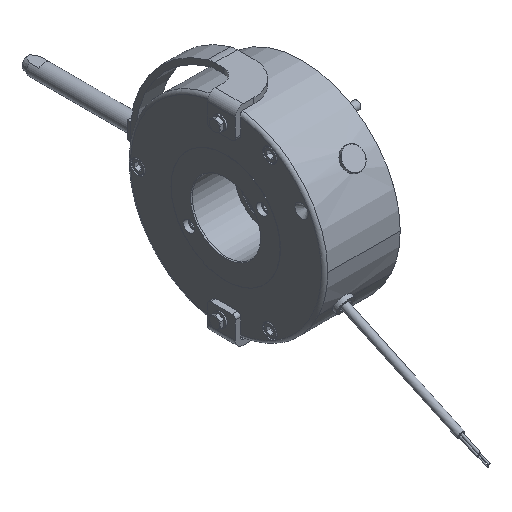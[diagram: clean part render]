
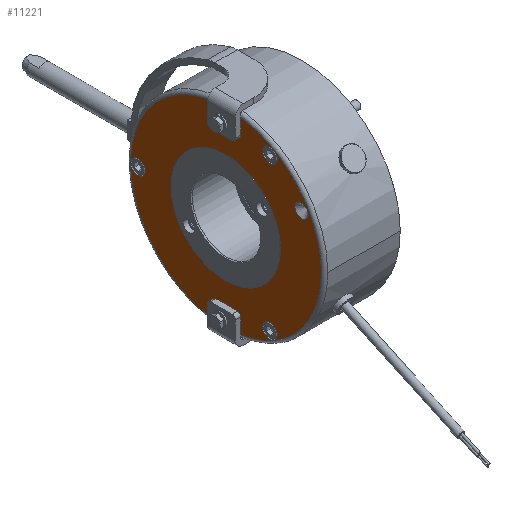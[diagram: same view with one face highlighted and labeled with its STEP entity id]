
A CAD part, isometric view. The second image highlights one B-rep face of the part: STEP entity #11221.
In plain terms, the highlighted planar face has unit normal (-1, 0, 0).
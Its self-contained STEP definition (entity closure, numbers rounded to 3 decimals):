
#297=PLANE('',#12083);
#430=FACE_BOUND('',#1344,.T.);
#431=FACE_BOUND('',#1345,.T.);
#432=FACE_BOUND('',#1346,.T.);
#433=FACE_BOUND('',#1347,.T.);
#434=FACE_BOUND('',#1348,.T.);
#677=FACE_OUTER_BOUND('',#1343,.T.);
#1343=EDGE_LOOP('',(#7709,#7710,#7711,#7712,#7713,#7714,#7715,#7716,#7717,
#7718,#7719,#7720));
#1344=EDGE_LOOP('',(#7721,#7722));
#1345=EDGE_LOOP('',(#7723,#7724));
#1346=EDGE_LOOP('',(#7725,#7726));
#1347=EDGE_LOOP('',(#7727,#7728));
#1348=EDGE_LOOP('',(#7729,#7730));
#2217=CIRCLE('',#11985,41.);
#2218=CIRCLE('',#11986,41.);
#2222=CIRCLE('',#11992,5.5);
#2223=CIRCLE('',#11993,5.5);
#2227=CIRCLE('',#12000,5.5);
#2228=CIRCLE('',#12001,5.5);
#2232=CIRCLE('',#12008,5.5);
#2233=CIRCLE('',#12009,5.5);
#2240=CIRCLE('',#12019,71.501);
#2242=CIRCLE('',#12021,71.501);
#2279=CIRCLE('',#12072,5.);
#2280=CIRCLE('',#12073,5.);
#2286=CIRCLE('',#12084,2.5);
#2287=CIRCLE('',#12085,2.5);
#2288=CIRCLE('',#12086,2.5);
#2289=CIRCLE('',#12087,2.5);
#2935=LINE('',#17553,#3561);
#2936=LINE('',#17555,#3562);
#2937=LINE('',#17559,#3563);
#2938=LINE('',#17562,#3564);
#2939=LINE('',#17564,#3565);
#2940=LINE('',#17568,#3566);
#3561=VECTOR('',#14003,10.);
#3562=VECTOR('',#14004,10.);
#3563=VECTOR('',#14007,10.);
#3564=VECTOR('',#14010,10.);
#3565=VECTOR('',#14011,10.);
#3566=VECTOR('',#14014,10.);
#4282=VERTEX_POINT('',#17290);
#4283=VERTEX_POINT('',#17291);
#4287=VERTEX_POINT('',#17304);
#4288=VERTEX_POINT('',#17305);
#4292=VERTEX_POINT('',#17319);
#4293=VERTEX_POINT('',#17320);
#4297=VERTEX_POINT('',#17334);
#4298=VERTEX_POINT('',#17335);
#4302=VERTEX_POINT('',#17369);
#4303=VERTEX_POINT('',#17371);
#4304=VERTEX_POINT('',#17373);
#4305=VERTEX_POINT('',#17375);
#4347=VERTEX_POINT('',#17527);
#4348=VERTEX_POINT('',#17528);
#4355=VERTEX_POINT('',#17552);
#4356=VERTEX_POINT('',#17554);
#4357=VERTEX_POINT('',#17556);
#4358=VERTEX_POINT('',#17558);
#4359=VERTEX_POINT('',#17560);
#4360=VERTEX_POINT('',#17563);
#4361=VERTEX_POINT('',#17565);
#4362=VERTEX_POINT('',#17567);
#5517=EDGE_CURVE('',#4282,#4283,#2217,.T.);
#5518=EDGE_CURVE('',#4283,#4282,#2218,.T.);
#5524=EDGE_CURVE('',#4287,#4288,#2222,.T.);
#5525=EDGE_CURVE('',#4288,#4287,#2223,.T.);
#5531=EDGE_CURVE('',#4292,#4293,#2227,.T.);
#5532=EDGE_CURVE('',#4293,#4292,#2228,.T.);
#5538=EDGE_CURVE('',#4297,#4298,#2232,.T.);
#5539=EDGE_CURVE('',#4298,#4297,#2233,.T.);
#5548=EDGE_CURVE('',#4302,#4303,#2240,.T.);
#5550=EDGE_CURVE('',#4304,#4305,#2242,.T.);
#5604=EDGE_CURVE('',#4347,#4348,#2279,.T.);
#5605=EDGE_CURVE('',#4348,#4347,#2280,.T.);
#5616=EDGE_CURVE('',#4355,#4305,#2935,.T.);
#5617=EDGE_CURVE('',#4304,#4356,#2936,.T.);
#5618=EDGE_CURVE('',#4356,#4357,#2286,.T.);
#5619=EDGE_CURVE('',#4357,#4358,#2937,.T.);
#5620=EDGE_CURVE('',#4358,#4359,#2287,.T.);
#5621=EDGE_CURVE('',#4359,#4303,#2938,.T.);
#5622=EDGE_CURVE('',#4302,#4360,#2939,.T.);
#5623=EDGE_CURVE('',#4360,#4361,#2288,.T.);
#5624=EDGE_CURVE('',#4361,#4362,#2940,.T.);
#5625=EDGE_CURVE('',#4362,#4355,#2289,.T.);
#7709=ORIENTED_EDGE('',*,*,#5616,.T.);
#7710=ORIENTED_EDGE('',*,*,#5550,.F.);
#7711=ORIENTED_EDGE('',*,*,#5617,.T.);
#7712=ORIENTED_EDGE('',*,*,#5618,.T.);
#7713=ORIENTED_EDGE('',*,*,#5619,.T.);
#7714=ORIENTED_EDGE('',*,*,#5620,.T.);
#7715=ORIENTED_EDGE('',*,*,#5621,.T.);
#7716=ORIENTED_EDGE('',*,*,#5548,.F.);
#7717=ORIENTED_EDGE('',*,*,#5622,.T.);
#7718=ORIENTED_EDGE('',*,*,#5623,.T.);
#7719=ORIENTED_EDGE('',*,*,#5624,.T.);
#7720=ORIENTED_EDGE('',*,*,#5625,.T.);
#7721=ORIENTED_EDGE('',*,*,#5604,.T.);
#7722=ORIENTED_EDGE('',*,*,#5605,.T.);
#7723=ORIENTED_EDGE('',*,*,#5517,.T.);
#7724=ORIENTED_EDGE('',*,*,#5518,.T.);
#7725=ORIENTED_EDGE('',*,*,#5524,.T.);
#7726=ORIENTED_EDGE('',*,*,#5525,.T.);
#7727=ORIENTED_EDGE('',*,*,#5531,.T.);
#7728=ORIENTED_EDGE('',*,*,#5532,.T.);
#7729=ORIENTED_EDGE('',*,*,#5538,.T.);
#7730=ORIENTED_EDGE('',*,*,#5539,.T.);
#11221=ADVANCED_FACE('',(#677,#430,#431,#432,#433,#434),#297,.T.);
#11985=AXIS2_PLACEMENT_3D('',#17292,#13781,#13782);
#11986=AXIS2_PLACEMENT_3D('',#17293,#13783,#13784);
#11992=AXIS2_PLACEMENT_3D('',#17306,#13797,#13798);
#11993=AXIS2_PLACEMENT_3D('',#17307,#13799,#13800);
#12000=AXIS2_PLACEMENT_3D('',#17321,#13815,#13816);
#12001=AXIS2_PLACEMENT_3D('',#17322,#13817,#13818);
#12008=AXIS2_PLACEMENT_3D('',#17336,#13833,#13834);
#12009=AXIS2_PLACEMENT_3D('',#17337,#13835,#13836);
#12019=AXIS2_PLACEMENT_3D('',#17372,#13856,#13857);
#12021=AXIS2_PLACEMENT_3D('',#17376,#13860,#13861);
#12072=AXIS2_PLACEMENT_3D('',#17529,#13974,#13975);
#12073=AXIS2_PLACEMENT_3D('',#17530,#13976,#13977);
#12083=AXIS2_PLACEMENT_3D('',#17551,#14001,#14002);
#12084=AXIS2_PLACEMENT_3D('',#17557,#14005,#14006);
#12085=AXIS2_PLACEMENT_3D('',#17561,#14008,#14009);
#12086=AXIS2_PLACEMENT_3D('',#17566,#14012,#14013);
#12087=AXIS2_PLACEMENT_3D('',#17569,#14015,#14016);
#13781=DIRECTION('center_axis',(1.,0.,0.));
#13782=DIRECTION('ref_axis',(0.,1.,0.));
#13783=DIRECTION('center_axis',(1.,0.,0.));
#13784=DIRECTION('ref_axis',(0.,1.,0.));
#13797=DIRECTION('center_axis',(1.,0.,0.));
#13798=DIRECTION('ref_axis',(0.,0.,1.));
#13799=DIRECTION('center_axis',(1.,0.,0.));
#13800=DIRECTION('ref_axis',(0.,0.,1.));
#13815=DIRECTION('center_axis',(1.,0.,0.));
#13816=DIRECTION('ref_axis',(0.,0.,1.));
#13817=DIRECTION('center_axis',(1.,0.,0.));
#13818=DIRECTION('ref_axis',(0.,0.,1.));
#13833=DIRECTION('center_axis',(1.,0.,0.));
#13834=DIRECTION('ref_axis',(0.,0.,1.));
#13835=DIRECTION('center_axis',(1.,0.,0.));
#13836=DIRECTION('ref_axis',(0.,0.,1.));
#13856=DIRECTION('center_axis',(1.,0.,0.));
#13857=DIRECTION('ref_axis',(0.,-1.,0.));
#13860=DIRECTION('center_axis',(1.,0.,0.));
#13861=DIRECTION('ref_axis',(0.,-1.,0.));
#13974=DIRECTION('center_axis',(1.,0.,0.));
#13975=DIRECTION('ref_axis',(0.,0.,1.));
#13976=DIRECTION('center_axis',(1.,0.,0.));
#13977=DIRECTION('ref_axis',(0.,0.,1.));
#14001=DIRECTION('center_axis',(-1.,0.,0.));
#14002=DIRECTION('ref_axis',(0.,0.,1.));
#14003=DIRECTION('',(0.,0.,1.));
#14004=DIRECTION('',(0.,0.,1.));
#14005=DIRECTION('center_axis',(1.,0.,0.));
#14006=DIRECTION('ref_axis',(0.,0.707,0.707));
#14007=DIRECTION('',(0.,-1.,0.));
#14008=DIRECTION('center_axis',(1.,0.,0.));
#14009=DIRECTION('ref_axis',(0.,-0.707,0.707));
#14010=DIRECTION('',(0.,0.,-1.));
#14011=DIRECTION('',(0.,0.,-1.));
#14012=DIRECTION('center_axis',(1.,0.,0.));
#14013=DIRECTION('ref_axis',(0.,-0.707,-0.707));
#14014=DIRECTION('',(0.,1.,0.));
#14015=DIRECTION('center_axis',(1.,0.,0.));
#14016=DIRECTION('ref_axis',(0.,0.707,-0.707));
#17290=CARTESIAN_POINT('',(-56.9,41.,0.));
#17291=CARTESIAN_POINT('',(-56.9,-41.,0.));
#17292=CARTESIAN_POINT('Origin',(-56.9,0.,0.));
#17293=CARTESIAN_POINT('Origin',(-56.9,0.,0.));
#17304=CARTESIAN_POINT('',(-56.9,66.,5.5));
#17305=CARTESIAN_POINT('',(-56.9,66.,-5.5));
#17306=CARTESIAN_POINT('Origin',(-56.9,66.,0.));
#17307=CARTESIAN_POINT('Origin',(-56.9,66.,0.));
#17319=CARTESIAN_POINT('',(-56.9,-33.,-51.658));
#17320=CARTESIAN_POINT('',(-56.9,-33.,-62.658));
#17321=CARTESIAN_POINT('Origin',(-56.9,-33.,-57.158));
#17322=CARTESIAN_POINT('Origin',(-56.9,-33.,-57.158));
#17334=CARTESIAN_POINT('',(-56.9,-33.,62.658));
#17335=CARTESIAN_POINT('',(-56.9,-33.,51.658));
#17336=CARTESIAN_POINT('Origin',(-56.9,-33.,57.158));
#17337=CARTESIAN_POINT('Origin',(-56.9,-33.,57.158));
#17369=CARTESIAN_POINT('',(-56.9,-11.,70.65));
#17371=CARTESIAN_POINT('',(-56.9,-11.,-70.65));
#17372=CARTESIAN_POINT('Origin',(-56.9,0.,0.));
#17373=CARTESIAN_POINT('',(-56.9,10.,-70.798));
#17375=CARTESIAN_POINT('',(-56.9,10.,70.798));
#17376=CARTESIAN_POINT('Origin',(-56.9,0.,0.));
#17527=CARTESIAN_POINT('',(-56.9,-56.811,37.8));
#17528=CARTESIAN_POINT('',(-56.9,-56.811,27.8));
#17529=CARTESIAN_POINT('Origin',(-56.9,-56.811,32.8));
#17530=CARTESIAN_POINT('Origin',(-56.9,-56.811,32.8));
#17551=CARTESIAN_POINT('Origin',(-56.9,57.5,0.));
#17552=CARTESIAN_POINT('',(-56.9,10.,59.));
#17553=CARTESIAN_POINT('',(-56.9,10.,37.25));
#17554=CARTESIAN_POINT('',(-56.9,10.,-59.));
#17555=CARTESIAN_POINT('',(-56.9,10.,-39.25));
#17556=CARTESIAN_POINT('',(-56.9,7.5,-56.5));
#17557=CARTESIAN_POINT('Origin',(-56.9,7.5,-59.));
#17558=CARTESIAN_POINT('',(-56.9,-8.5,-56.5));
#17559=CARTESIAN_POINT('',(-56.9,33.75,-56.5));
#17560=CARTESIAN_POINT('',(-56.9,-11.,-59.));
#17561=CARTESIAN_POINT('Origin',(-56.9,-8.5,-59.));
#17562=CARTESIAN_POINT('',(-56.9,-11.,-37.25));
#17563=CARTESIAN_POINT('',(-56.9,-11.,59.));
#17564=CARTESIAN_POINT('',(-56.9,-11.,39.25));
#17565=CARTESIAN_POINT('',(-56.9,-8.5,56.5));
#17566=CARTESIAN_POINT('Origin',(-56.9,-8.5,59.));
#17567=CARTESIAN_POINT('',(-56.9,7.5,56.5));
#17568=CARTESIAN_POINT('',(-56.9,23.25,56.5));
#17569=CARTESIAN_POINT('Origin',(-56.9,7.5,59.));
